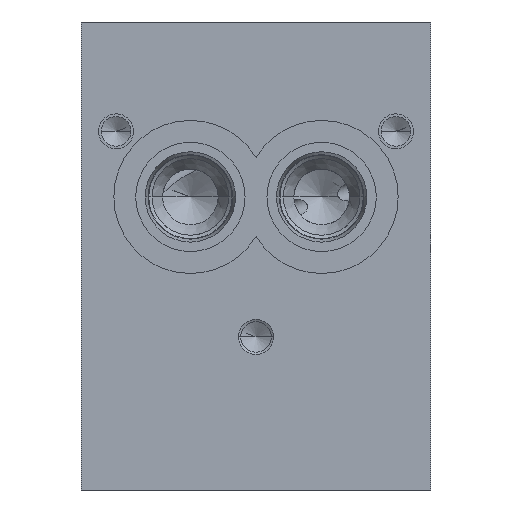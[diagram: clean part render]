
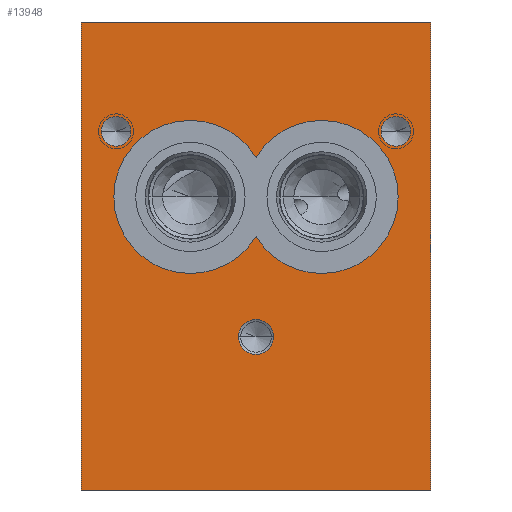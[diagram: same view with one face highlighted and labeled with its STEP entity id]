
A CAD part, front view. The second image highlights one B-rep face of the part: STEP entity #13948.
In plain terms, the highlighted planar face has unit normal (0, -1, 0).
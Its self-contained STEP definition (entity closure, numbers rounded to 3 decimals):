
#19=DIRECTION('',(0.,0.,-1.));
#20=VECTOR('',#19,107.);
#21=CARTESIAN_POINT('',(0.,0.,0.));
#22=LINE('',#21,#20);
#276=DIRECTION('',(1.,0.,0.));
#277=VECTOR('',#276,80.);
#278=CARTESIAN_POINT('',(0.,0.,0.));
#279=LINE('',#278,#277);
#283=CARTESIAN_POINT('',(8.,0.,-25.));
#284=DIRECTION('',(0.,-1.,0.));
#285=DIRECTION('',(-1.,0.,0.));
#286=AXIS2_PLACEMENT_3D('',#283,#284,#285);
#291=CARTESIAN_POINT('',(8.,0.,-25.));
#292=DIRECTION('',(0.,-1.,0.));
#293=DIRECTION('',(1.,0.,0.));
#294=AXIS2_PLACEMENT_3D('',#291,#292,#293);
#299=CARTESIAN_POINT('',(72.,0.,-25.));
#300=DIRECTION('',(0.,-1.,0.));
#301=DIRECTION('',(-1.,0.,0.));
#302=AXIS2_PLACEMENT_3D('',#299,#300,#301);
#307=CARTESIAN_POINT('',(72.,0.,-25.));
#308=DIRECTION('',(0.,-1.,0.));
#309=DIRECTION('',(1.,0.,0.));
#310=AXIS2_PLACEMENT_3D('',#307,#308,#309);
#315=CARTESIAN_POINT('',(40.,0.,-72.));
#316=DIRECTION('',(0.,-1.,0.));
#317=DIRECTION('',(-1.,0.,0.));
#318=AXIS2_PLACEMENT_3D('',#315,#316,#317);
#323=CARTESIAN_POINT('',(40.,0.,-72.));
#324=DIRECTION('',(0.,-1.,0.));
#325=DIRECTION('',(1.,0.,0.));
#326=AXIS2_PLACEMENT_3D('',#323,#324,#325);
#619=DIRECTION('',(1.,0.,0.));
#620=VECTOR('',#619,80.);
#621=CARTESIAN_POINT('',(0.,0.,-107.));
#622=LINE('',#621,#620);
#642=DIRECTION('',(0.,0.,-1.));
#643=VECTOR('',#642,107.);
#644=CARTESIAN_POINT('',(80.,0.,0.));
#645=LINE('',#644,#643);
#5861=CARTESIAN_POINT('',(25.,0.,-40.));
#5862=DIRECTION('',(0.,1.,0.));
#5863=DIRECTION('',(0.857,0.,-0.515));
#5864=AXIS2_PLACEMENT_3D('',#5861,#5862,#5863);
#5876=CARTESIAN_POINT('',(55.,0.,-40.));
#5877=DIRECTION('',(0.,1.,0.));
#5878=DIRECTION('',(-0.857,0.,0.515));
#5879=AXIS2_PLACEMENT_3D('',#5876,#5877,#5878);
#12770=CARTESIAN_POINT('',(0.,0.,0.));
#12771=CARTESIAN_POINT('',(0.,0.,-107.));
#12772=VERTEX_POINT('',#12770);
#12773=VERTEX_POINT('',#12771);
#12778=CARTESIAN_POINT('',(80.,0.,0.));
#12779=CARTESIAN_POINT('',(80.,0.,-107.));
#12780=VERTEX_POINT('',#12778);
#12781=VERTEX_POINT('',#12779);
#12888=CARTESIAN_POINT('',(4.6,0.,-25.));
#12889=CARTESIAN_POINT('',(11.4,0.,-25.));
#12890=VERTEX_POINT('',#12888);
#12891=VERTEX_POINT('',#12889);
#13449=CARTESIAN_POINT('',(36.,0.,-72.));
#13450=VERTEX_POINT('',#13449);
#13451=CARTESIAN_POINT('',(44.,0.,-72.));
#13452=VERTEX_POINT('',#13451);
#13529=CARTESIAN_POINT('',(40.,0.,-30.986));
#13531=VERTEX_POINT('',#13529);
#13533=CARTESIAN_POINT('',(40.,0.,-49.014));
#13535=VERTEX_POINT('',#13533);
#13818=CARTESIAN_POINT('',(68.6,0.,-25.));
#13819=CARTESIAN_POINT('',(75.4,0.,-25.));
#13820=VERTEX_POINT('',#13818);
#13821=VERTEX_POINT('',#13819);
#13910=CARTESIAN_POINT('',(0.,0.,0.));
#13911=DIRECTION('',(0.,-1.,0.));
#13912=DIRECTION('',(0.,0.,-1.));
#13913=AXIS2_PLACEMENT_3D('',#13910,#13911,#13912);
#13914=PLANE('',#13913);
#13915=ORIENTED_EDGE('',*,*,#13827,.F.);
#13917=ORIENTED_EDGE('',*,*,#13916,.T.);
#13919=ORIENTED_EDGE('',*,*,#13918,.T.);
#13921=ORIENTED_EDGE('',*,*,#13920,.F.);
#13922=EDGE_LOOP('',(#13915,#13917,#13919,#13921));
#13923=FACE_OUTER_BOUND('',#13922,.F.);
#13925=ORIENTED_EDGE('',*,*,#13924,.T.);
#13927=ORIENTED_EDGE('',*,*,#13926,.T.);
#13928=EDGE_LOOP('',(#13925,#13927));
#13929=FACE_BOUND('',#13928,.F.);
#13931=ORIENTED_EDGE('',*,*,#13930,.T.);
#13933=ORIENTED_EDGE('',*,*,#13932,.T.);
#13934=EDGE_LOOP('',(#13931,#13933));
#13935=FACE_BOUND('',#13934,.F.);
#13937=ORIENTED_EDGE('',*,*,#13936,.F.);
#13939=ORIENTED_EDGE('',*,*,#13938,.F.);
#13940=EDGE_LOOP('',(#13937,#13939));
#13941=FACE_BOUND('',#13940,.F.);
#13943=ORIENTED_EDGE('',*,*,#13942,.T.);
#13945=ORIENTED_EDGE('',*,*,#13944,.T.);
#13946=EDGE_LOOP('',(#13943,#13945));
#13947=FACE_BOUND('',#13946,.F.);
#287=CIRCLE('',#286,3.4);
#295=CIRCLE('',#294,3.4);
#303=CIRCLE('',#302,3.4);
#311=CIRCLE('',#310,3.4);
#319=CIRCLE('',#318,4.);
#327=CIRCLE('',#326,4.);
#5865=CIRCLE('',#5864,17.5);
#5880=CIRCLE('',#5879,17.5);
#13827=EDGE_CURVE('',#12772,#12773,#22,.T.);
#13916=EDGE_CURVE('',#12772,#12780,#279,.T.);
#13918=EDGE_CURVE('',#12780,#12781,#645,.T.);
#13920=EDGE_CURVE('',#12773,#12781,#622,.T.);
#13924=EDGE_CURVE('',#12890,#12891,#287,.T.);
#13926=EDGE_CURVE('',#12891,#12890,#295,.T.);
#13930=EDGE_CURVE('',#13820,#13821,#303,.T.);
#13932=EDGE_CURVE('',#13821,#13820,#311,.T.);
#13936=EDGE_CURVE('',#13531,#13535,#5880,.T.);
#13938=EDGE_CURVE('',#13535,#13531,#5865,.T.);
#13942=EDGE_CURVE('',#13450,#13452,#319,.T.);
#13944=EDGE_CURVE('',#13452,#13450,#327,.T.);
#13948=ADVANCED_FACE('',(#13923,#13929,#13935,#13941,#13947),#13914,.T.);
